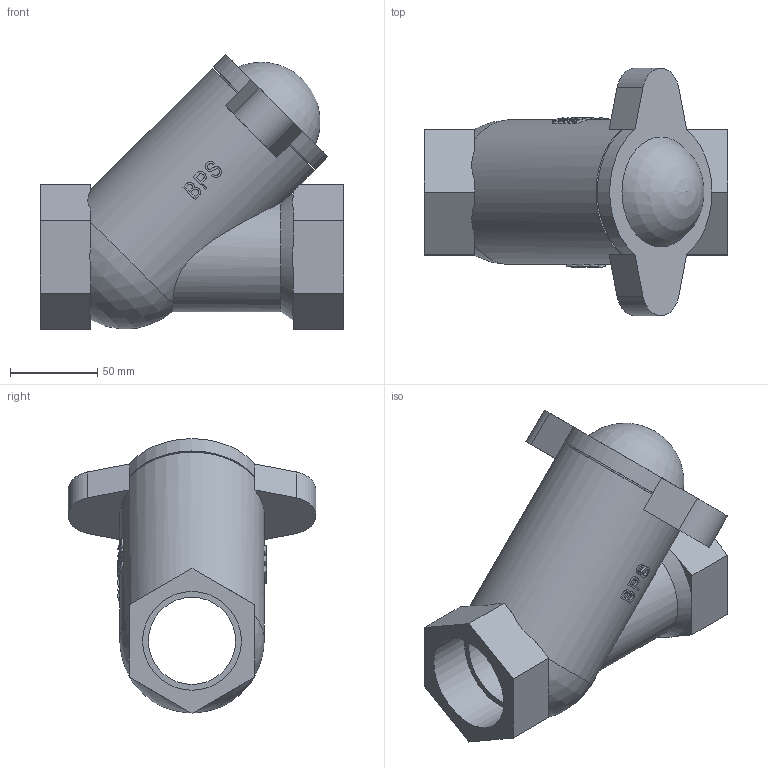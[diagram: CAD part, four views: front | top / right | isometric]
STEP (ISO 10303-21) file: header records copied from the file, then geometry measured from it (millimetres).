
FILE_DESCRIPTION( ( 'Unknown' ), '1' );
FILE_NAME( 'J:/Muud/ROOTSI BPS 3D vidinad/Kuuliga tagasiloogiklapid/STEP formaat/BPS 6540050 ball check valve DN50.stp', 'Unknown', ( 'Unknown' ), ( 'Unknown' ), 'PSStep 10.1', 'Unknown', ' ' );
FILE_SCHEMA( ( 'AUTOMOTIVE_DESIGN { 1 0 10303 214 1 1 1 1 }' ) );
Length unit declared in the file: millimetre
Products named in the file (1): 1
Bounding box: 174 x 141.89 x 157.57 mm (x, y, z)
Volume: 864091.7 mm3; surface area: 106817.1 mm2
Topology: 1 solids, 1 shells, 182 faces, 465 edges, 307 vertices
Faces by surface type: plane 104, bspline 40, cylinder 35, sphere 2, cone 1
Full cylindrical faces by diameter (mm): 50 x1, 56.656 x2, 71 x1, 83 x1
Entity records: 14065 total; most frequent: CARTESIAN_POINT 8947, ORIENTED_EDGE 900, DIRECTION 462, EDGE_CURVE 450, B_SPLINE_CURVE_WITH_KNOTS 326, VERTEX_POINT 303, EDGE_LOOP 223, AXIS2_PLACEMENT_3D 195
